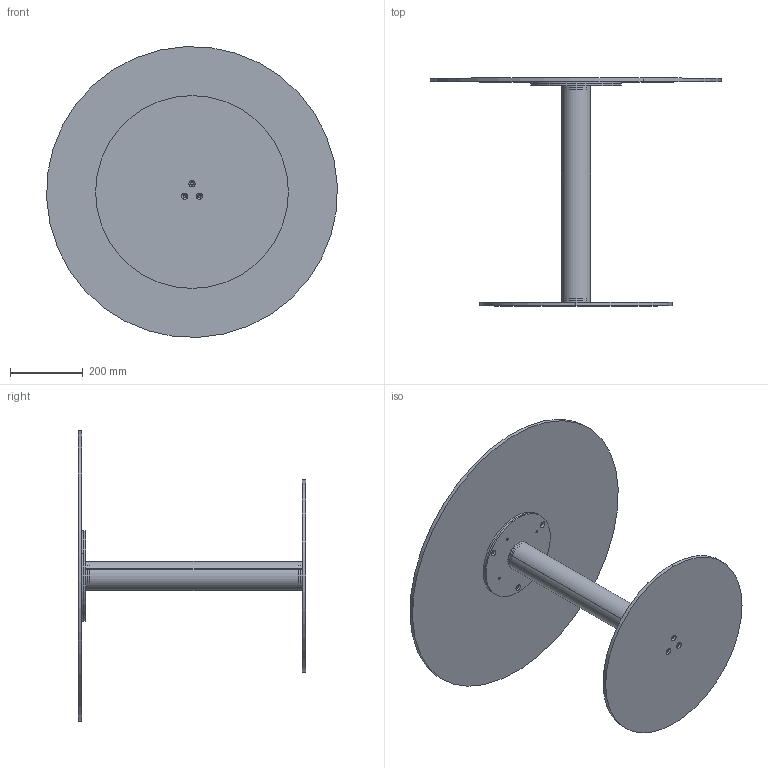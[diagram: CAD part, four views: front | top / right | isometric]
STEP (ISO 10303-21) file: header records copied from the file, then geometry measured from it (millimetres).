
FILE_DESCRIPTION (( 'STEP AP203' ), '1' );
FILE_NAME ('CB25G.STEP', '2024-08-08T08:40:08', ( '' ), ( '' ), 'SwSTEP 2.0', 'SolidWorks 2022', '' );
FILE_SCHEMA (( 'CONFIG_CONTROL_DESIGN' ));
Length unit declared in the file: millimetre
Products named in the file (9): CBS000001COL_02-00-CILINDRO BISTRO PIASTRA M8; P0000003-00-STAFFA DI FISSAGGIO DIAMETRO 250_P0000003-250mm normale; CBS200000PST-00-CONTROPIASTRA PER PIASTRA D.25cm GREZZO_250; CXXCRXX-00-Piani Rotondi in Cristallo CON PIASTRA_C02P PIANO CRISTALLO D.80cm; CBS000000BAS-00-BISTRO PIASTRA INFERIORE_D.530; CB25G; CBS000001COL-00-CILINDRO BISTRO COLONNA H63; C1XCRMXX-00-piani Rotondi Cristallo_C02 D.80cm; CBS000001COL_01-00-CILINDRO BISTRO TUBO H63
Assembly tree (9 placements, depth 3):
  CB25G
    CBS000001COL-00-CILINDRO BISTRO COLONNA H63
      CBS000001COL_01-00-CILINDRO BISTRO TUBO H63
      CBS000001COL_02-00-CILINDRO BISTRO PIASTRA M8  x2
    CBS000000BAS-00-BISTRO PIASTRA INFERIORE_D.530
    CBS200000PST-00-CONTROPIASTRA PER PIASTRA D.25cm GREZZO_250
    CXXCRXX-00-Piani Rotondi in Cristallo CON PIASTRA_C02P PIANO CRISTALLO D.80cm
      C1XCRMXX-00-piani Rotondi Cristallo_C02 D.80cm
      P0000003-00-STAFFA DI FISSAGGIO DIAMETRO 250_P0000003-250mm normale
Bounding box: 799.2 x 626 x 799.2 mm (x, y, z)
Volume: 8099260.2 mm3; surface area: 2006964.6 mm2
Topology: 7 solids, 7 shells, 104 faces, 244 edges, 154 vertices
Faces by surface type: cylinder 64, cone 26, plane 14
Entity records: 3821 total; most frequent: DIRECTION 574, CARTESIAN_POINT 466, ORIENTED_EDGE 440, AXIS2_PLACEMENT_3D 246, EDGE_CURVE 220, CIRCLE 138, VERTEX_POINT 138, EDGE_LOOP 138
